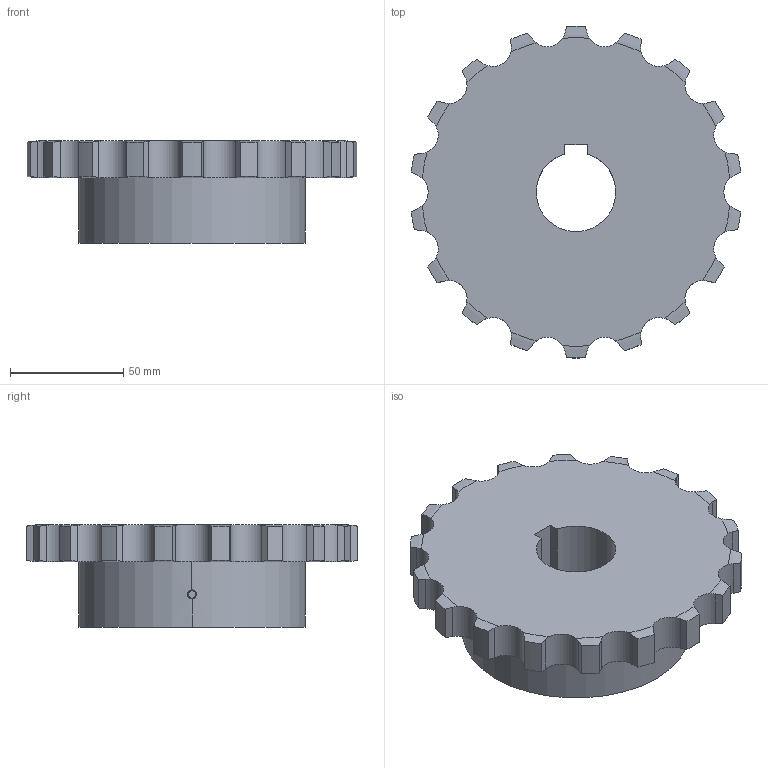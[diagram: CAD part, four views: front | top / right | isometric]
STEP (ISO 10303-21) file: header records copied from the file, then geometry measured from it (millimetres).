
FILE_DESCRIPTION((''),'2;1');
FILE_NAME('510-501-3518_PRT','2021-02-13T',('Brieden'),('Brieden'),'PRO/ENGINEER BY PARAMETRIC TECHNOLOGY CORPORATION, 2010160','PRO/ENGINEER BY PARAMETRIC TECHNOLOGY CORPORATION, 2010160','');
FILE_SCHEMA(('AUTOMOTIVE_DESIGN { 1 0 10303 214 1 1 1 1 }'));
Length unit declared in the file: millimetre
Products named in the file (1): 510-501-3518_PRT
Bounding box: 145.23 x 146.26 x 45 mm (x, y, z)
Volume: 423795.3 mm3; surface area: 51941.7 mm2
Topology: 1 solids, 1 shells, 129 faces, 369 edges, 244 vertices
Faces by surface type: cylinder 79, torus 36, plane 8, bspline 6
Entity records: 6324 total; most frequent: CARTESIAN_POINT 1985, ORIENTED_EDGE 738, DIRECTION 577, PRESENTATION_STYLE_ASSIGNMENT 370, STYLED_ITEM 370, CURVE_STYLE 369, EDGE_CURVE 369, VERTEX_POINT 244
